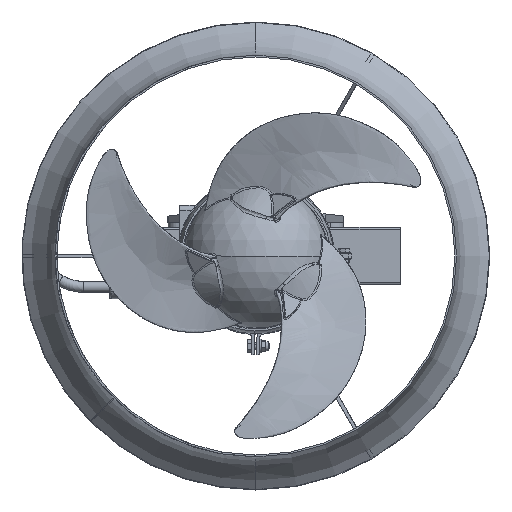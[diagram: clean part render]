
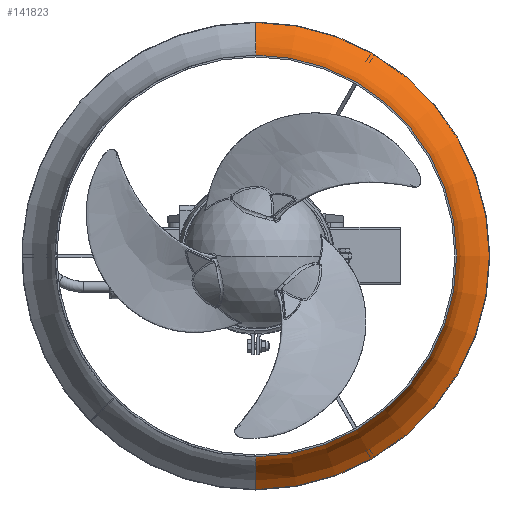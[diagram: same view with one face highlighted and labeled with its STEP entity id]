
A CAD part, left-side view. The second image highlights one B-rep face of the part: STEP entity #141823.
In plain terms, the highlighted toroidal (fillet/blend) face has major radius 473 mm and minor radius 125 mm.
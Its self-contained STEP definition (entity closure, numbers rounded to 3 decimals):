
#468 = DIRECTION ( 'NONE',  ( 0., 0., 1. ) ) ;
#879 = CARTESIAN_POINT ( 'NONE',  ( -613.792, 0., -405.5 ) ) ;
#11072 = CARTESIAN_POINT ( 'NONE',  ( -719., 0., 0. ) ) ;
#24836 = VERTEX_POINT ( 'NONE', #82729 ) ;
#25665 = VERTEX_POINT ( 'NONE', #879 ) ;
#28930 = CARTESIAN_POINT ( 'NONE',  ( -719., 0., 473. ) ) ;
#29462 = CARTESIAN_POINT ( 'NONE',  ( -719., 0., -348. ) ) ;
#38939 = TOROIDAL_SURFACE ( 'NONE', #168162, 473., 125. ) ;
#44488 = DIRECTION ( 'NONE',  ( 0., 0., -1. ) ) ;
#49882 = CIRCLE ( 'NONE', #50610, 125. ) ;
#50610 = AXIS2_PLACEMENT_3D ( 'NONE', #28930, #137064, #44488 ) ;
#50615 = EDGE_CURVE ( 'NONE', #162877, #98338, #192445, .T. ) ;
#52423 = CARTESIAN_POINT ( 'NONE',  ( -719., 0., -473. ) ) ;
#58309 = AXIS2_PLACEMENT_3D ( 'NONE', #76254, #184326, #91811 ) ;
#67957 = DIRECTION ( 'NONE',  ( 0., 0., 1. ) ) ;
#72239 = ORIENTED_EDGE ( 'NONE', *, *, #141310, .T. ) ;
#76254 = CARTESIAN_POINT ( 'NONE',  ( -613.792, 0., 0. ) ) ;
#80826 = CARTESIAN_POINT ( 'NONE',  ( -719., 0., 348. ) ) ;
#82729 = CARTESIAN_POINT ( 'NONE',  ( -613.792, 0., 405.5 ) ) ;
#88820 = DIRECTION ( 'NONE',  ( 0., 0., 1. ) ) ;
#91811 = DIRECTION ( 'NONE',  ( 0., 0., 1. ) ) ;
#93043 = DIRECTION ( 'NONE',  ( -1., 0., 0. ) ) ;
#98338 = VERTEX_POINT ( 'NONE', #80826 ) ;
#112713 = ORIENTED_EDGE ( 'NONE', *, *, #50615, .F. ) ;
#122498 = CIRCLE ( 'NONE', #127718, 125. ) ;
#123464 = AXIS2_PLACEMENT_3D ( 'NONE', #185563, #93043, #468 ) ;
#127718 = AXIS2_PLACEMENT_3D ( 'NONE', #52423, #160542, #67957 ) ;
#137064 = DIRECTION ( 'NONE',  ( 0., -1., 0. ) ) ;
#138566 = ORIENTED_EDGE ( 'NONE', *, *, #185500, .F. ) ;
#141310 = EDGE_CURVE ( 'NONE', #162877, #25665, #122498, .T. ) ;
#141823 = ADVANCED_FACE ( 'NONE', ( #176764 ), #38939, .F. ) ;
#160542 = DIRECTION ( 'NONE',  ( 0., 1., 0. ) ) ;
#162877 = VERTEX_POINT ( 'NONE', #29462 ) ;
#165203 = EDGE_LOOP ( 'NONE', ( #112713, #72239, #190165, #138566 ) ) ;
#168162 = AXIS2_PLACEMENT_3D ( 'NONE', #11072, #181359, #88820 ) ;
#169434 = EDGE_CURVE ( 'NONE', #25665, #24836, #172979, .T. ) ;
#172979 = CIRCLE ( 'NONE', #58309, 405.5 ) ;
#176764 = FACE_OUTER_BOUND ( 'NONE', #165203, .T. ) ;
#181359 = DIRECTION ( 'NONE',  ( -1., 0., 0. ) ) ;
#184326 = DIRECTION ( 'NONE',  ( -1., 0., 0. ) ) ;
#185500 = EDGE_CURVE ( 'NONE', #98338, #24836, #49882, .T. ) ;
#185563 = CARTESIAN_POINT ( 'NONE',  ( -719., 0., 0. ) ) ;
#190165 = ORIENTED_EDGE ( 'NONE', *, *, #169434, .T. ) ;
#192445 = CIRCLE ( 'NONE', #123464, 348. ) ;
